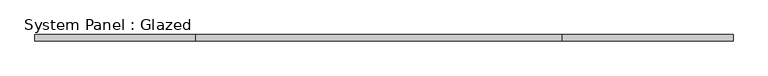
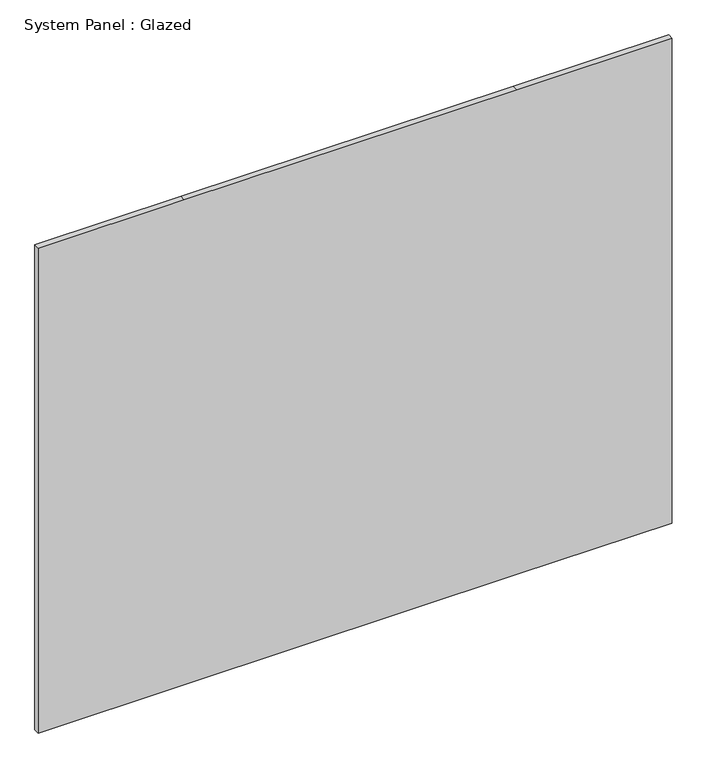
"""IFC4 building model written with IfcOpenShell, lengths in millimetres: plate geometry, System Panel : Glazed."""

from ifc_helpers import new_model, si_unit, frame, origin, place, context, project, spatial, polyline, outline, extrude, source, transform, mapped, element, save


def system_panel_glazed_508074fb(model_context):
    return source(origin(), model_context, "Body", "SweptSolid", [
        extrude(outline(polyline([(0.0, -1452.5625), (0.0, -782.6375), (0.0, 741.3625), (0.0, 1452.5625), (2348.7093009, 1452.5625), (2348.7093009, 741.3625), (2348.7093009, -782.6375), (2348.7093009, -1452.5625), (0.0, -1452.5625)])), frame((0.0, 19.05, 0.0), z_axis=(0.0, 1.0, 0.0), x_axis=(0.0, 0.0, 1.0)), (0.0, 0.0, 1.0), 25.4),
    ])


if __name__ == "__main__":
    model = new_model("IFC4")
    model_context = context("Model", 3, world=origin())
    ifc_project = project(units=[si_unit("LENGTHUNIT", "METRE", prefix="MILLI")], contexts=[model_context])
    site = spatial("IfcSite", under=ifc_project)
    building = spatial("IfcBuilding", under=site)
    placement = place(None, origin())
    system_panel_glazed_shape = system_panel_glazed_508074fb(model_context)
    element("IfcPlate", 1, ObjectType="System Panel : Glazed", at=placement, inside=building, context=model_context, shape_type="MappedRepresentation", body=[
        mapped(system_panel_glazed_shape, transform((0.0, 0.0, 0.0), x_axis=(1.0, 0.0, 0.0), y_axis=(0.0, 1.0, 0.0), z_axis=(0.0, 0.0, 1.0))),
    ])
    save(model, "model.ifc")
